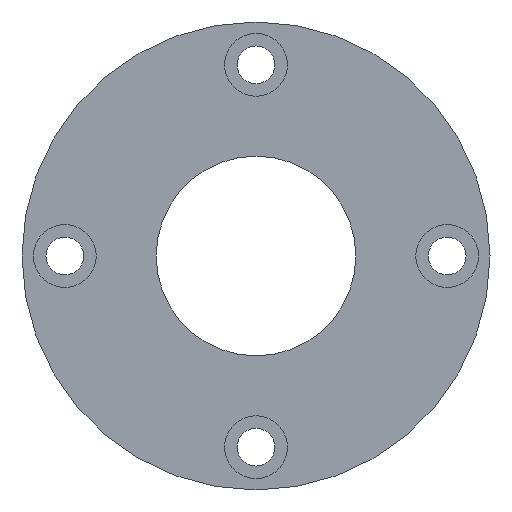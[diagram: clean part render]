
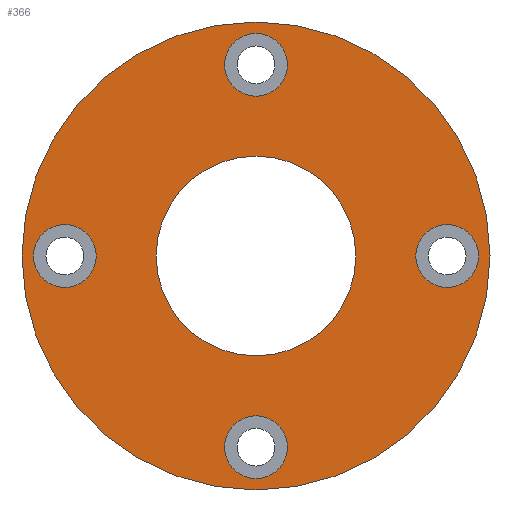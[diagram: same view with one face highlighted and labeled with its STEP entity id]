
A CAD part, front view. The second image highlights one B-rep face of the part: STEP entity #366.
In plain terms, the highlighted planar face has unit normal (0, -1, 0).
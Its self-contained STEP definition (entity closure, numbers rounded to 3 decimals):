
#6 = CARTESIAN_POINT ( 'NONE',  ( 35., -35., -28. ) ) ;
#21 = FACE_BOUND ( 'NONE', #189, .T. ) ;
#22 = AXIS2_PLACEMENT_3D ( 'NONE', #287, #71, #641 ) ;
#25 = CARTESIAN_POINT ( 'NONE',  ( 35., -35., 17.5 ) ) ;
#71 = DIRECTION ( 'NONE',  ( 0., 1., 0. ) ) ;
#81 = FACE_OUTER_BOUND ( 'NONE', #187, .T. ) ;
#82 = VERTEX_POINT ( 'NONE', #519 ) ;
#92 = AXIS2_PLACEMENT_3D ( 'NONE', #309, #370, #425 ) ;
#95 = CARTESIAN_POINT ( 'NONE',  ( 35., -35., 33.5 ) ) ;
#96 = CIRCLE ( 'NONE', #605, 5.5 ) ;
#97 = DIRECTION ( 'NONE',  ( 0., 1., 0. ) ) ;
#108 = CIRCLE ( 'NONE', #455, 5.5 ) ;
#111 = EDGE_LOOP ( 'NONE', ( #302, #180 ) ) ;
#112 = ORIENTED_EDGE ( 'NONE', *, *, #660, .T. ) ;
#114 = DIRECTION ( 'NONE',  ( 0., 1., 0. ) ) ;
#120 = EDGE_CURVE ( 'NONE', #716, #623, #96, .T. ) ;
#125 = AXIS2_PLACEMENT_3D ( 'NONE', #762, #291, #498 ) ;
#154 = ORIENTED_EDGE ( 'NONE', *, *, #355, .T. ) ;
#170 = EDGE_LOOP ( 'NONE', ( #642, #154 ) ) ;
#172 = AXIS2_PLACEMENT_3D ( 'NONE', #873, #892, #800 ) ;
#180 = ORIENTED_EDGE ( 'NONE', *, *, #418, .T. ) ;
#187 = EDGE_LOOP ( 'NONE', ( #776, #386 ) ) ;
#189 = EDGE_LOOP ( 'NONE', ( #670, #112 ) ) ;
#201 = DIRECTION ( 'NONE',  ( 0., 1., 0. ) ) ;
#207 = ORIENTED_EDGE ( 'NONE', *, *, #885, .T. ) ;
#219 = PLANE ( 'NONE',  #125 ) ;
#222 = DIRECTION ( 'NONE',  ( 0., 1., 0. ) ) ;
#224 = VERTEX_POINT ( 'NONE', #612 ) ;
#244 = CARTESIAN_POINT ( 'NONE',  ( 68.5, -35., 0. ) ) ;
#255 = VERTEX_POINT ( 'NONE', #467 ) ;
#258 = CARTESIAN_POINT ( 'NONE',  ( 68.5, -35., 5.5 ) ) ;
#277 = AXIS2_PLACEMENT_3D ( 'NONE', #584, #451, #778 ) ;
#279 = DIRECTION ( 'NONE',  ( 0., 0., 1. ) ) ;
#287 = CARTESIAN_POINT ( 'NONE',  ( 35., -35., -33.5 ) ) ;
#290 = CIRCLE ( 'NONE', #394, 5.5 ) ;
#291 = DIRECTION ( 'NONE',  ( 0., -1., 0. ) ) ;
#302 = ORIENTED_EDGE ( 'NONE', *, *, #120, .T. ) ;
#305 = DIRECTION ( 'NONE',  ( 0., 0., -1. ) ) ;
#306 = AXIS2_PLACEMENT_3D ( 'NONE', #409, #97, #657 ) ;
#307 = DIRECTION ( 'NONE',  ( 0., 0., -1. ) ) ;
#309 = CARTESIAN_POINT ( 'NONE',  ( 1.5, -35., 0. ) ) ;
#324 = CIRCLE ( 'NONE', #92, 5.5 ) ;
#327 = EDGE_CURVE ( 'NONE', #833, #224, #379, .T. ) ;
#339 = EDGE_CURVE ( 'NONE', #82, #358, #290, .T. ) ;
#351 = AXIS2_PLACEMENT_3D ( 'NONE', #773, #222, #502 ) ;
#353 = DIRECTION ( 'NONE',  ( 0., 1., 0. ) ) ;
#355 = EDGE_CURVE ( 'NONE', #398, #255, #845, .T. ) ;
#356 = CARTESIAN_POINT ( 'NONE',  ( 35., -35., 28. ) ) ;
#357 = CARTESIAN_POINT ( 'NONE',  ( 35., -35., 0. ) ) ;
#358 = VERTEX_POINT ( 'NONE', #832 ) ;
#359 = VERTEX_POINT ( 'NONE', #621 ) ;
#366 = ADVANCED_FACE ( 'NONE', ( #694, #567, #631, #479, #21, #81 ), #219, .T. ) ;
#370 = DIRECTION ( 'NONE',  ( 0., 1., 0. ) ) ;
#379 = CIRCLE ( 'NONE', #731, 41. ) ;
#386 = ORIENTED_EDGE ( 'NONE', *, *, #327, .F. ) ;
#394 = AXIS2_PLACEMENT_3D ( 'NONE', #414, #353, #279 ) ;
#397 = EDGE_CURVE ( 'NONE', #591, #799, #743, .T. ) ;
#398 = VERTEX_POINT ( 'NONE', #6 ) ;
#409 = CARTESIAN_POINT ( 'NONE',  ( 68.5, -35., 0. ) ) ;
#414 = CARTESIAN_POINT ( 'NONE',  ( 1.5, -35., 0. ) ) ;
#418 = EDGE_CURVE ( 'NONE', #623, #716, #700, .T. ) ;
#420 = CIRCLE ( 'NONE', #496, 5.5 ) ;
#425 = DIRECTION ( 'NONE',  ( 0., 0., 1. ) ) ;
#436 = EDGE_CURVE ( 'NONE', #255, #398, #420, .T. ) ;
#440 = DIRECTION ( 'NONE',  ( 0., 0., -1. ) ) ;
#441 = DIRECTION ( 'NONE',  ( 0., 1., 0. ) ) ;
#451 = DIRECTION ( 'NONE',  ( 0., 1., 0. ) ) ;
#455 = AXIS2_PLACEMENT_3D ( 'NONE', #95, #725, #440 ) ;
#467 = CARTESIAN_POINT ( 'NONE',  ( 35., -35., -39. ) ) ;
#479 = FACE_BOUND ( 'NONE', #494, .T. ) ;
#483 = EDGE_CURVE ( 'NONE', #359, #547, #769, .T. ) ;
#494 = EDGE_LOOP ( 'NONE', ( #826, #536 ) ) ;
#496 = AXIS2_PLACEMENT_3D ( 'NONE', #856, #441, #305 ) ;
#498 = DIRECTION ( 'NONE',  ( 0., 0., 1. ) ) ;
#502 = DIRECTION ( 'NONE',  ( 0., 0., -1. ) ) ;
#519 = CARTESIAN_POINT ( 'NONE',  ( 1.5, -35., -5.5 ) ) ;
#536 = ORIENTED_EDGE ( 'NONE', *, *, #865, .T. ) ;
#547 = VERTEX_POINT ( 'NONE', #25 ) ;
#554 = CARTESIAN_POINT ( 'NONE',  ( 35., -35., 41. ) ) ;
#567 = FACE_BOUND ( 'NONE', #170, .T. ) ;
#576 = EDGE_LOOP ( 'NONE', ( #207, #724 ) ) ;
#584 = CARTESIAN_POINT ( 'NONE',  ( 35., -35., 0. ) ) ;
#590 = DIRECTION ( 'NONE',  ( 0., 1., 0. ) ) ;
#591 = VERTEX_POINT ( 'NONE', #598 ) ;
#598 = CARTESIAN_POINT ( 'NONE',  ( 35., -35., 39. ) ) ;
#605 = AXIS2_PLACEMENT_3D ( 'NONE', #244, #590, #307 ) ;
#612 = CARTESIAN_POINT ( 'NONE',  ( 35., -35., -41. ) ) ;
#621 = CARTESIAN_POINT ( 'NONE',  ( 35., -35., -17.5 ) ) ;
#623 = VERTEX_POINT ( 'NONE', #258 ) ;
#625 = CIRCLE ( 'NONE', #172, 17.5 ) ;
#631 = FACE_BOUND ( 'NONE', #576, .T. ) ;
#641 = DIRECTION ( 'NONE',  ( 0., 0., -1. ) ) ;
#642 = ORIENTED_EDGE ( 'NONE', *, *, #436, .T. ) ;
#657 = DIRECTION ( 'NONE',  ( 0., 0., -1. ) ) ;
#660 = EDGE_CURVE ( 'NONE', #547, #359, #625, .T. ) ;
#667 = EDGE_CURVE ( 'NONE', #224, #833, #742, .T. ) ;
#670 = ORIENTED_EDGE ( 'NONE', *, *, #483, .T. ) ;
#694 = FACE_BOUND ( 'NONE', #111, .T. ) ;
#700 = CIRCLE ( 'NONE', #306, 5.5 ) ;
#709 = DIRECTION ( 'NONE',  ( 0., 0., -1. ) ) ;
#716 = VERTEX_POINT ( 'NONE', #841 ) ;
#724 = ORIENTED_EDGE ( 'NONE', *, *, #397, .T. ) ;
#725 = DIRECTION ( 'NONE',  ( 0., 1., 0. ) ) ;
#731 = AXIS2_PLACEMENT_3D ( 'NONE', #357, #201, #709 ) ;
#736 = CARTESIAN_POINT ( 'NONE',  ( 35., -35., 0. ) ) ;
#742 = CIRCLE ( 'NONE', #765, 41. ) ;
#743 = CIRCLE ( 'NONE', #351, 5.5 ) ;
#762 = CARTESIAN_POINT ( 'NONE',  ( -6., -35., 0. ) ) ;
#765 = AXIS2_PLACEMENT_3D ( 'NONE', #736, #114, #803 ) ;
#769 = CIRCLE ( 'NONE', #277, 17.5 ) ;
#773 = CARTESIAN_POINT ( 'NONE',  ( 35., -35., 33.5 ) ) ;
#776 = ORIENTED_EDGE ( 'NONE', *, *, #667, .F. ) ;
#778 = DIRECTION ( 'NONE',  ( 0., 0., -1. ) ) ;
#799 = VERTEX_POINT ( 'NONE', #356 ) ;
#800 = DIRECTION ( 'NONE',  ( 0., 0., -1. ) ) ;
#803 = DIRECTION ( 'NONE',  ( 0., 0., -1. ) ) ;
#826 = ORIENTED_EDGE ( 'NONE', *, *, #339, .T. ) ;
#832 = CARTESIAN_POINT ( 'NONE',  ( 1.5, -35., 5.5 ) ) ;
#833 = VERTEX_POINT ( 'NONE', #554 ) ;
#841 = CARTESIAN_POINT ( 'NONE',  ( 68.5, -35., -5.5 ) ) ;
#845 = CIRCLE ( 'NONE', #22, 5.5 ) ;
#856 = CARTESIAN_POINT ( 'NONE',  ( 35., -35., -33.5 ) ) ;
#865 = EDGE_CURVE ( 'NONE', #358, #82, #324, .T. ) ;
#873 = CARTESIAN_POINT ( 'NONE',  ( 35., -35., 0. ) ) ;
#885 = EDGE_CURVE ( 'NONE', #799, #591, #108, .T. ) ;
#892 = DIRECTION ( 'NONE',  ( 0., 1., 0. ) ) ;
